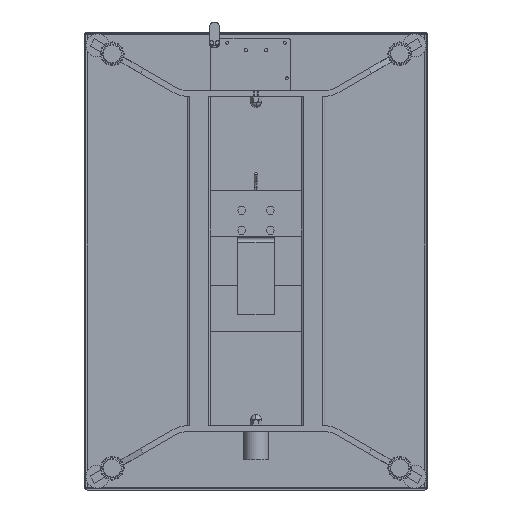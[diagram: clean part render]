
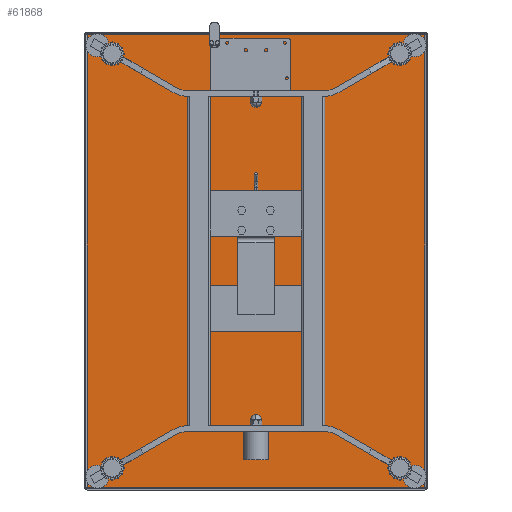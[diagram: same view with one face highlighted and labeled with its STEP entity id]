
A CAD part, front view. The second image highlights one B-rep face of the part: STEP entity #61868.
In plain terms, the highlighted planar face has unit normal (0, -1, 0).
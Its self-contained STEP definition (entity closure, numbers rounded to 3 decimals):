
#60377=DIRECTION('',(0.,0.,-1.));
#60378=VECTOR('',#60377,790.);
#60379=CARTESIAN_POINT('',(395.,95.9,395.));
#60380=LINE('',#60379,#60378);
#60481=CARTESIAN_POINT('',(395.,95.9,395.));
#60489=DIRECTION('',(1.,0.,0.));
#60490=VECTOR('',#60489,590.);
#60491=CARTESIAN_POINT('',(-195.,95.9,395.));
#60492=LINE('',#60491,#60490);
#60538=CARTESIAN_POINT('',(-195.,95.9,-395.));
#60546=DIRECTION('',(-1.,0.,0.));
#60547=VECTOR('',#60546,590.);
#60548=CARTESIAN_POINT('',(395.,95.9,-395.));
#60549=LINE('',#60548,#60547);
#60750=DIRECTION('',(0.,0.,1.));
#60751=VECTOR('',#60750,790.);
#60752=CARTESIAN_POINT('',(-195.,95.9,-395.));
#60753=LINE('',#60752,#60751);
#60762=CARTESIAN_POINT('',(377.008,95.9,-376.705));
#60763=DIRECTION('',(0.,1.,0.));
#60764=DIRECTION('',(0.,0.,-1.));
#60765=AXIS2_PLACEMENT_3D('',#60762,#60763,#60764);
#60767=CARTESIAN_POINT('',(377.008,95.9,-376.705));
#60768=DIRECTION('',(0.,1.,0.));
#60769=DIRECTION('',(0.,0.,1.));
#60770=AXIS2_PLACEMENT_3D('',#60767,#60768,#60769);
#60884=CARTESIAN_POINT('',(-177.008,95.9,-376.705));
#60885=DIRECTION('',(0.,1.,0.));
#60886=DIRECTION('',(0.,0.,-1.));
#60887=AXIS2_PLACEMENT_3D('',#60884,#60885,#60886);
#60889=CARTESIAN_POINT('',(-177.008,95.9,-376.705));
#60890=DIRECTION('',(0.,1.,0.));
#60891=DIRECTION('',(0.,0.,1.));
#60892=AXIS2_PLACEMENT_3D('',#60889,#60890,#60891);
#61006=CARTESIAN_POINT('',(377.008,95.9,376.705));
#61007=DIRECTION('',(0.,1.,0.));
#61008=DIRECTION('',(0.,0.,-1.));
#61009=AXIS2_PLACEMENT_3D('',#61006,#61007,#61008);
#61011=CARTESIAN_POINT('',(377.008,95.9,376.705));
#61012=DIRECTION('',(0.,1.,0.));
#61013=DIRECTION('',(0.,0.,1.));
#61014=AXIS2_PLACEMENT_3D('',#61011,#61012,#61013);
#61146=CARTESIAN_POINT('',(395.,95.9,-395.));
#61147=VERTEX_POINT('',#61146);
#61148=VERTEX_POINT('',#60538);
#61163=CARTESIAN_POINT('',(-195.,95.9,395.));
#61164=VERTEX_POINT('',#61163);
#61165=VERTEX_POINT('',#60481);
#61283=CARTESIAN_POINT('',(377.008,95.9,-392.405));
#61284=CARTESIAN_POINT('',(377.008,95.9,-361.005));
#61285=VERTEX_POINT('',#61283);
#61286=VERTEX_POINT('',#61284);
#61287=CARTESIAN_POINT('',(-177.008,95.9,-392.405));
#61288=CARTESIAN_POINT('',(-177.008,95.9,-361.005));
#61289=VERTEX_POINT('',#61287);
#61290=VERTEX_POINT('',#61288);
#61291=CARTESIAN_POINT('',(377.008,95.9,361.005));
#61292=CARTESIAN_POINT('',(377.008,95.9,392.405));
#61293=VERTEX_POINT('',#61291);
#61294=VERTEX_POINT('',#61292);
#61837=CARTESIAN_POINT('',(100.,95.9,0.));
#61838=DIRECTION('',(0.,1.,0.));
#61839=DIRECTION('',(0.,0.,1.));
#61840=AXIS2_PLACEMENT_3D('',#61837,#61838,#61839);
#61841=PLANE('',#61840);
#61842=ORIENTED_EDGE('',*,*,#61688,.T.);
#61843=ORIENTED_EDGE('',*,*,#61447,.T.);
#61845=ORIENTED_EDGE('',*,*,#61844,.T.);
#61847=ORIENTED_EDGE('',*,*,#61846,.T.);
#61848=EDGE_LOOP('',(#61842,#61843,#61845,#61847));
#61849=FACE_OUTER_BOUND('',#61848,.F.);
#61851=ORIENTED_EDGE('',*,*,#61850,.F.);
#61853=ORIENTED_EDGE('',*,*,#61852,.F.);
#61854=EDGE_LOOP('',(#61851,#61853));
#61855=FACE_BOUND('',#61854,.F.);
#61857=ORIENTED_EDGE('',*,*,#61856,.F.);
#61859=ORIENTED_EDGE('',*,*,#61858,.F.);
#61860=EDGE_LOOP('',(#61857,#61859));
#61861=FACE_BOUND('',#61860,.F.);
#61863=ORIENTED_EDGE('',*,*,#61862,.F.);
#61865=ORIENTED_EDGE('',*,*,#61864,.F.);
#61866=EDGE_LOOP('',(#61863,#61865));
#61867=FACE_BOUND('',#61866,.F.);
#61868=ADVANCED_FACE('',(#61849,#61855,#61861,#61867),#61841,.F.);
#60766=CIRCLE('',#60765,15.7);
#60771=CIRCLE('',#60770,15.7);
#60888=CIRCLE('',#60887,15.7);
#60893=CIRCLE('',#60892,15.7);
#61010=CIRCLE('',#61009,15.7);
#61015=CIRCLE('',#61014,15.7);
#61447=EDGE_CURVE('',#61165,#61147,#60380,.T.);
#61688=EDGE_CURVE('',#61164,#61165,#60492,.T.);
#61844=EDGE_CURVE('',#61147,#61148,#60549,.T.);
#61846=EDGE_CURVE('',#61148,#61164,#60753,.T.);
#61850=EDGE_CURVE('',#61285,#61286,#60766,.T.);
#61852=EDGE_CURVE('',#61286,#61285,#60771,.T.);
#61856=EDGE_CURVE('',#61289,#61290,#60888,.T.);
#61858=EDGE_CURVE('',#61290,#61289,#60893,.T.);
#61862=EDGE_CURVE('',#61293,#61294,#61010,.T.);
#61864=EDGE_CURVE('',#61294,#61293,#61015,.T.);
